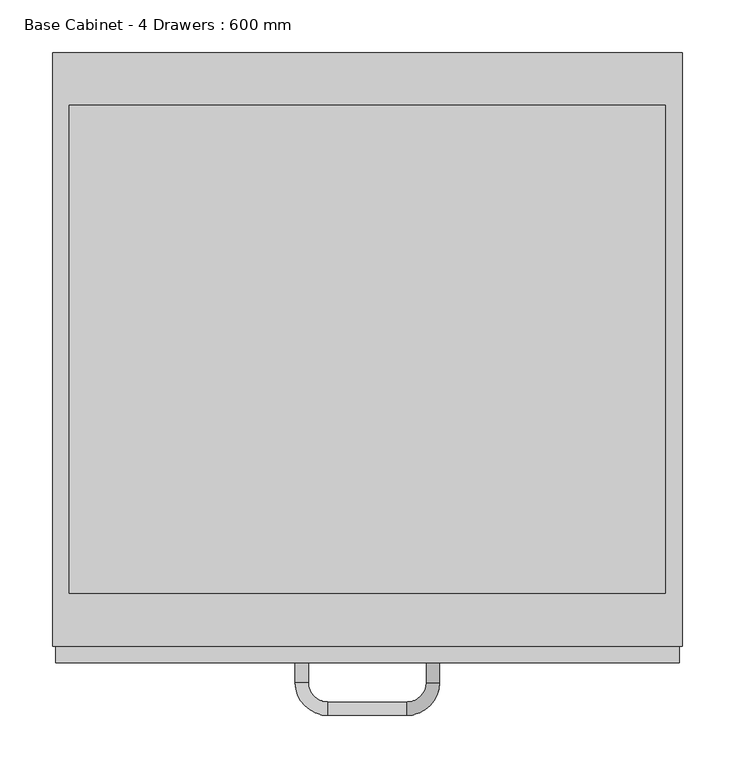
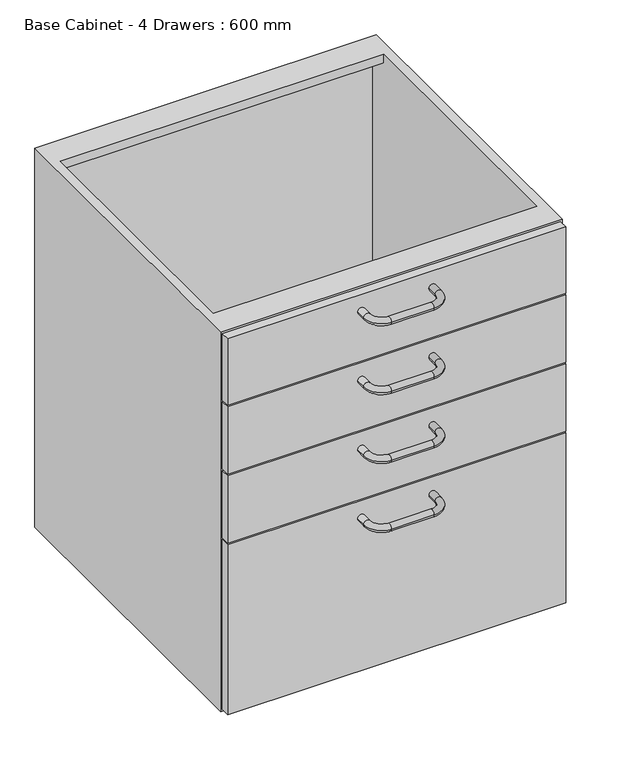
"""IFC4 building model written with IfcOpenShell, lengths in millimetres: furniture geometry, Base Cabinet - 4 Drawers : 600 mm."""

from ifc_helpers import new_model, si_unit, point, frame, origin, place, context, project, spatial, polyline, circle_curve, ellipse_curve, trimmed, outline, extrude, faceted_brep, source, transform, mapped, element, save
from ifc_brep_helpers import plane_surface, cylinder_surface, revolved_surface, advanced_brep


def base_cabinet_4_drawers_600_mm_75a3c887(model_context):
    return source(origin(), model_context, "Body", "SolidModel", [
        extrude(outline(polyline([(341.7003264, -581.0), (-252.2996736, -581.0), (-252.2996736, -565.0), (341.7003264, -565.0), (341.7003264, -581.0)])), frame((0.0, 0.0, 741.5), z_axis=(0.0, 0.0, 1.0), x_axis=(1.0, 0.0, 0.0)), (0.0, 0.0, 1.0), 123.5),
        extrude(outline(polyline([(341.7003264, -581.0), (-252.2996736, -581.0), (-252.2996736, -565.0), (341.7003264, -565.0), (341.7003264, -581.0)])), frame((0.0, 0.0, 167.0), z_axis=(0.0, 0.0, 1.0), x_axis=(1.0, 0.0, 0.0)), (0.0, 0.0, 1.0), 315.5),
        extrude(outline(polyline([(341.7003264, -581.0), (-252.2996736, -581.0), (-252.2996736, -565.0), (341.7003264, -565.0), (341.7003264, -581.0)])), frame((0.0, 0.0, 613.5), z_axis=(0.0, 0.0, 1.0), x_axis=(1.0, 0.0, 0.0)), (0.0, 0.0, 1.0), 125.0),
        extrude(outline(polyline([(341.7003264, -581.0), (-252.2996736, -581.0), (-252.2996736, -565.0), (341.7003264, -565.0), (341.7003264, -581.0)])), frame((0.0, 0.0, 485.5), z_axis=(0.0, 0.0, 1.0), x_axis=(1.0, 0.0, 0.0)), (0.0, 0.0, 1.0), 125.0),
        advanced_brep(
        [(113.4503264, -581.0, 451.0), (100.9503264, -581.0, 451.0), (113.4503264, -599.75, 451.0), (100.9503264, -599.75, 451.0), (82.2003264, -618.5, 451.0), (82.2003264, -631.0, 451.0), (7.2003264, -631.0, 451.0), (7.2003264, -618.5, 451.0), (-11.5496736, -599.75, 451.0), (-24.0496736, -599.75, 451.0), (-24.0496736, -581.0, 451.0), (-11.5496736, -581.0, 451.0)],
        [
            (0, 1, circle_curve(frame((107.2003264, -581.0, 451.0), z_axis=(0.0, 1.0, 0.0), x_axis=(-1.0, 0.0, 0.0)), 6.25)),
            (1, 0, circle_curve(frame((107.2003264, -581.0, 451.0), z_axis=(0.0, 1.0, 0.0), x_axis=(-1.0, 0.0, 0.0)), 6.25)),
            (0, 2),
            (2, 3, circle_curve(frame((107.2003264, -599.75, 451.0), z_axis=(0.0, 1.0, 0.0), x_axis=(-1.0, 0.0, 0.0)), 6.25)),
            (3, 1),
            (3, 2, circle_curve(frame((107.2003264, -599.75, 451.0), z_axis=(0.0, 1.0, 0.0), x_axis=(-1.0, 0.0, 0.0)), 6.25)),
            (4, 3, circle_curve(frame((82.2003264, -599.75, 451.0), z_axis=(0.0, 0.0, 1.0), x_axis=(1.0, 0.0, 0.0)), 18.75)),
            (2, 5, circle_curve(frame((82.2003264, -599.75, 451.0), z_axis=(0.0, 0.0, -1.0), x_axis=(1.0, 0.0, 0.0)), 31.25)),
            (5, 4, circle_curve(frame((82.2003264, -624.75, 451.0), z_axis=(1.0, 0.0, 0.0), x_axis=(0.0, 1.0, 0.0)), 6.25)),
            (4, 5, circle_curve(frame((82.2003264, -624.75, 451.0), z_axis=(1.0, 0.0, 0.0), x_axis=(0.0, 1.0, 0.0)), 6.25)),
            (5, 6),
            (6, 7, circle_curve(frame((7.2003264, -624.75, 451.0), z_axis=(1.0, 0.0, 0.0), x_axis=(0.0, 1.0, 0.0)), 6.25)),
            (7, 4),
            (7, 6, circle_curve(frame((7.2003264, -624.75, 451.0), z_axis=(1.0, 0.0, 0.0), x_axis=(0.0, 1.0, 0.0)), 6.25)),
            (8, 7, circle_curve(frame((7.2003264, -599.75, 451.0), z_axis=(0.0, 0.0, 1.0), x_axis=(0.0, -1.0, 0.0)), 18.75)),
            (6, 9, circle_curve(frame((7.2003264, -599.75, 451.0), z_axis=(0.0, 0.0, -1.0), x_axis=(0.0, -1.0, 0.0)), 31.25)),
            (9, 8, circle_curve(frame((-17.7996736, -599.75, 451.0), z_axis=(0.0, -1.0, 0.0), x_axis=(1.0, 0.0, 0.0)), 6.25)),
            (8, 9, circle_curve(frame((-17.7996736, -599.75, 451.0), z_axis=(0.0, -1.0, 0.0), x_axis=(1.0, 0.0, 0.0)), 6.25)),
            (10, 11, circle_curve(frame((-17.7996736, -581.0, 451.0), z_axis=(0.0, 1.0, 0.0), x_axis=(1.0, 0.0, 0.0)), 6.25)),
            (11, 10, circle_curve(frame((-17.7996736, -581.0, 451.0), z_axis=(0.0, 1.0, 0.0), x_axis=(1.0, 0.0, 0.0)), 6.25)),
            (9, 10),
            (11, 8),
        ],
        [
            plane_surface(frame((107.2003264, -581.0, 451.0), z_axis=(0.0, 1.0, 0.0), x_axis=(0.0, 0.0, -1.0))),
            cylinder_surface(frame((107.2003264, -581.0, 451.0), z_axis=(0.0, 1.0, 0.0), x_axis=(-1.0, 0.0, 0.0)), 6.25),
            revolved_surface(trimmed(ellipse_curve(frame((107.2003264, -599.75, 451.0), z_axis=(0.0, 1.0, 0.0), x_axis=(-1.0, 0.0, 0.0)), 6.25, 6.25), [point((113.4503264, -599.75, 451.0))], [point((100.9503264, -599.75, 451.0))], True, "CARTESIAN"), (82.2003264, -599.75, 451.0), (0.0, 0.0, -1.0)),
            revolved_surface(trimmed(ellipse_curve(frame((107.2003264, -599.75, 451.0), z_axis=(0.0, 1.0, 0.0), x_axis=(-1.0, 0.0, 0.0)), 6.25, 6.25), [point((100.9503264, -599.75, 451.0))], [point((113.4503264, -599.75, 451.0))], True, "CARTESIAN"), (82.2003264, -599.75, 451.0), (0.0, 0.0, -1.0)),
            cylinder_surface(frame((82.2003264, -624.75, 451.0), z_axis=(1.0, 0.0, 0.0), x_axis=(0.0, 1.0, 0.0)), 6.25),
            revolved_surface(trimmed(ellipse_curve(frame((7.2003264, -624.75, 451.0), z_axis=(1.0, 0.0, 0.0), x_axis=(0.0, 1.0, 0.0)), 6.25, 6.25), [point((7.2003264, -631.0, 451.0))], [point((7.2003264, -618.5, 451.0))], True, "CARTESIAN"), (7.2003264, -599.75, 451.0), (0.0, 0.0, -1.0)),
            revolved_surface(trimmed(ellipse_curve(frame((7.2003264, -624.75, 451.0), z_axis=(1.0, 0.0, 0.0), x_axis=(0.0, 1.0, 0.0)), 6.25, 6.25), [point((7.2003264, -618.5, 451.0))], [point((7.2003264, -631.0, 451.0))], True, "CARTESIAN"), (7.2003264, -599.75, 451.0), (0.0, 0.0, -1.0)),
            plane_surface(frame((-17.7996736, -581.0, 451.0), z_axis=(0.0, 1.0, 0.0), x_axis=(0.0, 0.0, -1.0))),
            cylinder_surface(frame((-17.7996736, -599.75, 451.0), z_axis=(0.0, -1.0, 0.0), x_axis=(1.0, 0.0, 0.0)), 6.25),
        ],
        [
            (0, [[1, 2]]),
            (1, [[-1, 3, 4, 5]]),
            (1, [[-2, -5, 6, -3]]),
            (2, [[7, -4, 8, 9]]),
            (3, [[-8, -6, -7, 10]]),
            (4, [[-9, 11, 12, 13]]),
            (4, [[-10, -13, 14, -11]]),
            (5, [[15, -12, 16, 17]]),
            (6, [[-16, -14, -15, 18]]),
            (7, [[19, 20]]),
            (8, [[-17, 21, -20, 22]]),
            (8, [[-18, -22, -19, -21]]),
        ],
    ),
        advanced_brep(
        [(113.4503264, -581.0, 579.0), (100.9503264, -581.0, 579.0), (113.4503264, -599.75, 579.0), (100.9503264, -599.75, 579.0), (82.2003264, -618.5, 579.0), (82.2003264, -631.0, 579.0), (7.2003264, -631.0, 579.0), (7.2003264, -618.5, 579.0), (-11.5496736, -599.75, 579.0), (-24.0496736, -599.75, 579.0), (-24.0496736, -581.0, 579.0), (-11.5496736, -581.0, 579.0)],
        [
            (0, 1, circle_curve(frame((107.2003264, -581.0, 579.0), z_axis=(0.0, 1.0, 0.0), x_axis=(-1.0, 0.0, 0.0)), 6.25)),
            (1, 0, circle_curve(frame((107.2003264, -581.0, 579.0), z_axis=(0.0, 1.0, 0.0), x_axis=(-1.0, 0.0, 0.0)), 6.25)),
            (0, 2),
            (2, 3, circle_curve(frame((107.2003264, -599.75, 579.0), z_axis=(0.0, 1.0, 0.0), x_axis=(-1.0, 0.0, 0.0)), 6.25)),
            (3, 1),
            (3, 2, circle_curve(frame((107.2003264, -599.75, 579.0), z_axis=(0.0, 1.0, 0.0), x_axis=(-1.0, 0.0, 0.0)), 6.25)),
            (4, 3, circle_curve(frame((82.2003264, -599.75, 579.0), z_axis=(0.0, 0.0, 1.0), x_axis=(1.0, 0.0, 0.0)), 18.75)),
            (2, 5, circle_curve(frame((82.2003264, -599.75, 579.0), z_axis=(0.0, 0.0, -1.0), x_axis=(1.0, 0.0, 0.0)), 31.25)),
            (5, 4, circle_curve(frame((82.2003264, -624.75, 579.0), z_axis=(1.0, 0.0, 0.0), x_axis=(0.0, 1.0, 0.0)), 6.25)),
            (4, 5, circle_curve(frame((82.2003264, -624.75, 579.0), z_axis=(1.0, 0.0, 0.0), x_axis=(0.0, 1.0, 0.0)), 6.25)),
            (5, 6),
            (6, 7, circle_curve(frame((7.2003264, -624.75, 579.0), z_axis=(1.0, 0.0, 0.0), x_axis=(0.0, 1.0, 0.0)), 6.25)),
            (7, 4),
            (7, 6, circle_curve(frame((7.2003264, -624.75, 579.0), z_axis=(1.0, 0.0, 0.0), x_axis=(0.0, 1.0, 0.0)), 6.25)),
            (8, 7, circle_curve(frame((7.2003264, -599.75, 579.0), z_axis=(0.0, 0.0, 1.0), x_axis=(0.0, -1.0, 0.0)), 18.75)),
            (6, 9, circle_curve(frame((7.2003264, -599.75, 579.0), z_axis=(0.0, 0.0, -1.0), x_axis=(0.0, -1.0, 0.0)), 31.25)),
            (9, 8, circle_curve(frame((-17.7996736, -599.75, 579.0), z_axis=(0.0, -1.0, 0.0), x_axis=(1.0, 0.0, 0.0)), 6.25)),
            (8, 9, circle_curve(frame((-17.7996736, -599.75, 579.0), z_axis=(0.0, -1.0, 0.0), x_axis=(1.0, 0.0, 0.0)), 6.25)),
            (10, 11, circle_curve(frame((-17.7996736, -581.0, 579.0), z_axis=(0.0, 1.0, 0.0), x_axis=(1.0, 0.0, 0.0)), 6.25)),
            (11, 10, circle_curve(frame((-17.7996736, -581.0, 579.0), z_axis=(0.0, 1.0, 0.0), x_axis=(1.0, 0.0, 0.0)), 6.25)),
            (9, 10),
            (11, 8),
        ],
        [
            plane_surface(frame((107.2003264, -581.0, 579.0), z_axis=(0.0, 1.0, 0.0), x_axis=(0.0, 0.0, -1.0))),
            cylinder_surface(frame((107.2003264, -581.0, 579.0), z_axis=(0.0, 1.0, 0.0), x_axis=(-1.0, 0.0, 0.0)), 6.25),
            revolved_surface(trimmed(ellipse_curve(frame((107.2003264, -599.75, 579.0), z_axis=(0.0, 1.0, 0.0), x_axis=(-1.0, 0.0, 0.0)), 6.25, 6.25), [point((113.4503264, -599.75, 579.0))], [point((100.9503264, -599.75, 579.0))], True, "CARTESIAN"), (82.2003264, -599.75, 579.0), (0.0, 0.0, -1.0)),
            revolved_surface(trimmed(ellipse_curve(frame((107.2003264, -599.75, 579.0), z_axis=(0.0, 1.0, 0.0), x_axis=(-1.0, 0.0, 0.0)), 6.25, 6.25), [point((100.9503264, -599.75, 579.0))], [point((113.4503264, -599.75, 579.0))], True, "CARTESIAN"), (82.2003264, -599.75, 579.0), (0.0, 0.0, -1.0)),
            cylinder_surface(frame((82.2003264, -624.75, 579.0), z_axis=(1.0, 0.0, 0.0), x_axis=(0.0, 1.0, 0.0)), 6.25),
            revolved_surface(trimmed(ellipse_curve(frame((7.2003264, -624.75, 579.0), z_axis=(1.0, 0.0, 0.0), x_axis=(0.0, 1.0, 0.0)), 6.25, 6.25), [point((7.2003264, -631.0, 579.0))], [point((7.2003264, -618.5, 579.0))], True, "CARTESIAN"), (7.2003264, -599.75, 579.0), (0.0, 0.0, -1.0)),
            revolved_surface(trimmed(ellipse_curve(frame((7.2003264, -624.75, 579.0), z_axis=(1.0, 0.0, 0.0), x_axis=(0.0, 1.0, 0.0)), 6.25, 6.25), [point((7.2003264, -618.5, 579.0))], [point((7.2003264, -631.0, 579.0))], True, "CARTESIAN"), (7.2003264, -599.75, 579.0), (0.0, 0.0, -1.0)),
            plane_surface(frame((-17.7996736, -581.0, 579.0), z_axis=(0.0, 1.0, 0.0), x_axis=(0.0, 0.0, -1.0))),
            cylinder_surface(frame((-17.7996736, -599.75, 579.0), z_axis=(0.0, -1.0, 0.0), x_axis=(1.0, 0.0, 0.0)), 6.25),
        ],
        [
            (0, [[1, 2]]),
            (1, [[-1, 3, 4, 5]]),
            (1, [[-2, -5, 6, -3]]),
            (2, [[7, -4, 8, 9]]),
            (3, [[-8, -6, -7, 10]]),
            (4, [[-9, 11, 12, 13]]),
            (4, [[-10, -13, 14, -11]]),
            (5, [[15, -12, 16, 17]]),
            (6, [[-16, -14, -15, 18]]),
            (7, [[19, 20]]),
            (8, [[-17, 21, -20, 22]]),
            (8, [[-18, -22, -19, -21]]),
        ],
    ),
        advanced_brep(
        [(113.4503264, -581.0, 707.0), (100.9503264, -581.0, 707.0), (113.4503264, -599.75, 707.0), (100.9503264, -599.75, 707.0), (82.2003264, -618.5, 707.0), (82.2003264, -631.0, 707.0), (7.2003264, -631.0, 707.0), (7.2003264, -618.5, 707.0), (-11.5496736, -599.75, 707.0), (-24.0496736, -599.75, 707.0), (-24.0496736, -581.0, 707.0), (-11.5496736, -581.0, 707.0)],
        [
            (0, 1, circle_curve(frame((107.2003264, -581.0, 707.0), z_axis=(0.0, 1.0, 0.0), x_axis=(-1.0, 0.0, 0.0)), 6.25)),
            (1, 0, circle_curve(frame((107.2003264, -581.0, 707.0), z_axis=(0.0, 1.0, 0.0), x_axis=(-1.0, 0.0, 0.0)), 6.25)),
            (0, 2),
            (2, 3, circle_curve(frame((107.2003264, -599.75, 707.0), z_axis=(0.0, 1.0, 0.0), x_axis=(-1.0, 0.0, 0.0)), 6.25)),
            (3, 1),
            (3, 2, circle_curve(frame((107.2003264, -599.75, 707.0), z_axis=(0.0, 1.0, 0.0), x_axis=(-1.0, 0.0, 0.0)), 6.25)),
            (4, 3, circle_curve(frame((82.2003264, -599.75, 707.0), z_axis=(0.0, 0.0, 1.0), x_axis=(1.0, 0.0, 0.0)), 18.75)),
            (2, 5, circle_curve(frame((82.2003264, -599.75, 707.0), z_axis=(0.0, 0.0, -1.0), x_axis=(1.0, 0.0, 0.0)), 31.25)),
            (5, 4, circle_curve(frame((82.2003264, -624.75, 707.0), z_axis=(1.0, 0.0, 0.0), x_axis=(0.0, 1.0, 0.0)), 6.25)),
            (4, 5, circle_curve(frame((82.2003264, -624.75, 707.0), z_axis=(1.0, 0.0, 0.0), x_axis=(0.0, 1.0, 0.0)), 6.25)),
            (5, 6),
            (6, 7, circle_curve(frame((7.2003264, -624.75, 707.0), z_axis=(1.0, 0.0, 0.0), x_axis=(0.0, 1.0, 0.0)), 6.25)),
            (7, 4),
            (7, 6, circle_curve(frame((7.2003264, -624.75, 707.0), z_axis=(1.0, 0.0, 0.0), x_axis=(0.0, 1.0, 0.0)), 6.25)),
            (8, 7, circle_curve(frame((7.2003264, -599.75, 707.0), z_axis=(0.0, 0.0, 1.0), x_axis=(0.0, -1.0, 0.0)), 18.75)),
            (6, 9, circle_curve(frame((7.2003264, -599.75, 707.0), z_axis=(0.0, 0.0, -1.0), x_axis=(0.0, -1.0, 0.0)), 31.25)),
            (9, 8, circle_curve(frame((-17.7996736, -599.75, 707.0), z_axis=(0.0, -1.0, 0.0), x_axis=(1.0, 0.0, 0.0)), 6.25)),
            (8, 9, circle_curve(frame((-17.7996736, -599.75, 707.0), z_axis=(0.0, -1.0, 0.0), x_axis=(1.0, 0.0, 0.0)), 6.25)),
            (10, 11, circle_curve(frame((-17.7996736, -581.0, 707.0), z_axis=(0.0, 1.0, 0.0), x_axis=(1.0, 0.0, 0.0)), 6.25)),
            (11, 10, circle_curve(frame((-17.7996736, -581.0, 707.0), z_axis=(0.0, 1.0, 0.0), x_axis=(1.0, 0.0, 0.0)), 6.25)),
            (9, 10),
            (11, 8),
        ],
        [
            plane_surface(frame((107.2003264, -581.0, 707.0), z_axis=(0.0, 1.0, 0.0), x_axis=(0.0, 0.0, -1.0))),
            cylinder_surface(frame((107.2003264, -581.0, 707.0), z_axis=(0.0, 1.0, 0.0), x_axis=(-1.0, 0.0, 0.0)), 6.25),
            revolved_surface(trimmed(ellipse_curve(frame((107.2003264, -599.75, 707.0), z_axis=(0.0, 1.0, 0.0), x_axis=(-1.0, 0.0, 0.0)), 6.25, 6.25), [point((113.4503264, -599.75, 707.0))], [point((100.9503264, -599.75, 707.0))], True, "CARTESIAN"), (82.2003264, -599.75, 707.0), (0.0, 0.0, -1.0)),
            revolved_surface(trimmed(ellipse_curve(frame((107.2003264, -599.75, 707.0), z_axis=(0.0, 1.0, 0.0), x_axis=(-1.0, 0.0, 0.0)), 6.25, 6.25), [point((100.9503264, -599.75, 707.0))], [point((113.4503264, -599.75, 707.0))], True, "CARTESIAN"), (82.2003264, -599.75, 707.0), (0.0, 0.0, -1.0)),
            cylinder_surface(frame((82.2003264, -624.75, 707.0), z_axis=(1.0, 0.0, 0.0), x_axis=(0.0, 1.0, 0.0)), 6.25),
            revolved_surface(trimmed(ellipse_curve(frame((7.2003264, -624.75, 707.0), z_axis=(1.0, 0.0, 0.0), x_axis=(0.0, 1.0, 0.0)), 6.25, 6.25), [point((7.2003264, -631.0, 707.0))], [point((7.2003264, -618.5, 707.0))], True, "CARTESIAN"), (7.2003264, -599.75, 707.0), (0.0, 0.0, -1.0)),
            revolved_surface(trimmed(ellipse_curve(frame((7.2003264, -624.75, 707.0), z_axis=(1.0, 0.0, 0.0), x_axis=(0.0, 1.0, 0.0)), 6.25, 6.25), [point((7.2003264, -618.5, 707.0))], [point((7.2003264, -631.0, 707.0))], True, "CARTESIAN"), (7.2003264, -599.75, 707.0), (0.0, 0.0, -1.0)),
            plane_surface(frame((-17.7996736, -581.0, 707.0), z_axis=(0.0, 1.0, 0.0), x_axis=(0.0, 0.0, -1.0))),
            cylinder_surface(frame((-17.7996736, -599.75, 707.0), z_axis=(0.0, -1.0, 0.0), x_axis=(1.0, 0.0, 0.0)), 6.25),
        ],
        [
            (0, [[1, 2]]),
            (1, [[-1, 3, 4, 5]]),
            (1, [[-2, -5, 6, -3]]),
            (2, [[7, -4, 8, 9]]),
            (3, [[-8, -6, -7, 10]]),
            (4, [[-9, 11, 12, 13]]),
            (4, [[-10, -13, 14, -11]]),
            (5, [[15, -12, 16, 17]]),
            (6, [[-16, -14, -15, 18]]),
            (7, [[19, 20]]),
            (8, [[-17, 21, -20, 22]]),
            (8, [[-18, -22, -19, -21]]),
        ],
    ),
        advanced_brep(
        [(113.4503264, -581.0, 835.0), (100.9503264, -581.0, 835.0), (113.4503264, -599.75, 835.0), (100.9503264, -599.75, 835.0), (82.2003264, -618.5, 835.0), (82.2003264, -631.0, 835.0), (7.2003264, -631.0, 835.0), (7.2003264, -618.5, 835.0), (-11.5496736, -599.75, 835.0), (-24.0496736, -599.75, 835.0), (-24.0496736, -581.0, 835.0), (-11.5496736, -581.0, 835.0)],
        [
            (0, 1, circle_curve(frame((107.2003264, -581.0, 835.0), z_axis=(0.0, 1.0, 0.0), x_axis=(-1.0, 0.0, 0.0)), 6.25)),
            (1, 0, circle_curve(frame((107.2003264, -581.0, 835.0), z_axis=(0.0, 1.0, 0.0), x_axis=(-1.0, 0.0, 0.0)), 6.25)),
            (0, 2),
            (2, 3, circle_curve(frame((107.2003264, -599.75, 835.0), z_axis=(0.0, 1.0, 0.0), x_axis=(-1.0, 0.0, 0.0)), 6.25)),
            (3, 1),
            (3, 2, circle_curve(frame((107.2003264, -599.75, 835.0), z_axis=(0.0, 1.0, 0.0), x_axis=(-1.0, 0.0, 0.0)), 6.25)),
            (4, 3, circle_curve(frame((82.2003264, -599.75, 835.0), z_axis=(0.0, 0.0, 1.0), x_axis=(1.0, 0.0, 0.0)), 18.75)),
            (2, 5, circle_curve(frame((82.2003264, -599.75, 835.0), z_axis=(0.0, 0.0, -1.0), x_axis=(1.0, 0.0, 0.0)), 31.25)),
            (5, 4, circle_curve(frame((82.2003264, -624.75, 835.0), z_axis=(1.0, 0.0, 0.0), x_axis=(0.0, 1.0, 0.0)), 6.25)),
            (4, 5, circle_curve(frame((82.2003264, -624.75, 835.0), z_axis=(1.0, 0.0, 0.0), x_axis=(0.0, 1.0, 0.0)), 6.25)),
            (5, 6),
            (6, 7, circle_curve(frame((7.2003264, -624.75, 835.0), z_axis=(1.0, 0.0, 0.0), x_axis=(0.0, 1.0, 0.0)), 6.25)),
            (7, 4),
            (7, 6, circle_curve(frame((7.2003264, -624.75, 835.0), z_axis=(1.0, 0.0, 0.0), x_axis=(0.0, 1.0, 0.0)), 6.25)),
            (8, 7, circle_curve(frame((7.2003264, -599.75, 835.0), z_axis=(0.0, 0.0, 1.0), x_axis=(0.0, -1.0, 0.0)), 18.75)),
            (6, 9, circle_curve(frame((7.2003264, -599.75, 835.0), z_axis=(0.0, 0.0, -1.0), x_axis=(0.0, -1.0, 0.0)), 31.25)),
            (9, 8, circle_curve(frame((-17.7996736, -599.75, 835.0), z_axis=(0.0, -1.0, 0.0), x_axis=(1.0, 0.0, 0.0)), 6.25)),
            (8, 9, circle_curve(frame((-17.7996736, -599.75, 835.0), z_axis=(0.0, -1.0, 0.0), x_axis=(1.0, 0.0, 0.0)), 6.25)),
            (10, 11, circle_curve(frame((-17.7996736, -581.0, 835.0), z_axis=(0.0, 1.0, 0.0), x_axis=(1.0, 0.0, 0.0)), 6.25)),
            (11, 10, circle_curve(frame((-17.7996736, -581.0, 835.0), z_axis=(0.0, 1.0, 0.0), x_axis=(1.0, 0.0, 0.0)), 6.25)),
            (9, 10),
            (11, 8),
        ],
        [
            plane_surface(frame((107.2003264, -581.0, 835.0), z_axis=(0.0, 1.0, 0.0), x_axis=(0.0, 0.0, -1.0))),
            cylinder_surface(frame((107.2003264, -581.0, 835.0), z_axis=(0.0, 1.0, 0.0), x_axis=(-1.0, 0.0, 0.0)), 6.25),
            revolved_surface(trimmed(ellipse_curve(frame((107.2003264, -599.75, 835.0), z_axis=(0.0, 1.0, 0.0), x_axis=(-1.0, 0.0, 0.0)), 6.25, 6.25), [point((113.4503264, -599.75, 835.0))], [point((100.9503264, -599.75, 835.0))], True, "CARTESIAN"), (82.2003264, -599.75, 835.0), (0.0, 0.0, -1.0)),
            revolved_surface(trimmed(ellipse_curve(frame((107.2003264, -599.75, 835.0), z_axis=(0.0, 1.0, 0.0), x_axis=(-1.0, 0.0, 0.0)), 6.25, 6.25), [point((100.9503264, -599.75, 835.0))], [point((113.4503264, -599.75, 835.0))], True, "CARTESIAN"), (82.2003264, -599.75, 835.0), (0.0, 0.0, -1.0)),
            cylinder_surface(frame((82.2003264, -624.75, 835.0), z_axis=(1.0, 0.0, 0.0), x_axis=(0.0, 1.0, 0.0)), 6.25),
            revolved_surface(trimmed(ellipse_curve(frame((7.2003264, -624.75, 835.0), z_axis=(1.0, 0.0, 0.0), x_axis=(0.0, 1.0, 0.0)), 6.25, 6.25), [point((7.2003264, -631.0, 835.0))], [point((7.2003264, -618.5, 835.0))], True, "CARTESIAN"), (7.2003264, -599.75, 835.0), (0.0, 0.0, -1.0)),
            revolved_surface(trimmed(ellipse_curve(frame((7.2003264, -624.75, 835.0), z_axis=(1.0, 0.0, 0.0), x_axis=(0.0, 1.0, 0.0)), 6.25, 6.25), [point((7.2003264, -618.5, 835.0))], [point((7.2003264, -631.0, 835.0))], True, "CARTESIAN"), (7.2003264, -599.75, 835.0), (0.0, 0.0, -1.0)),
            plane_surface(frame((-17.7996736, -581.0, 835.0), z_axis=(0.0, 1.0, 0.0), x_axis=(0.0, 0.0, -1.0))),
            cylinder_surface(frame((-17.7996736, -599.75, 835.0), z_axis=(0.0, -1.0, 0.0), x_axis=(1.0, 0.0, 0.0)), 6.25),
        ],
        [
            (0, [[1, 2]]),
            (1, [[-1, 3, 4, 5]]),
            (1, [[-2, -5, 6, -3]]),
            (2, [[7, -4, 8, 9]]),
            (3, [[-8, -6, -7, 10]]),
            (4, [[-9, 11, 12, 13]]),
            (4, [[-10, -13, 14, -11]]),
            (5, [[15, -12, 16, 17]]),
            (6, [[-16, -14, -15, 18]]),
            (7, [[19, 20]]),
            (8, [[-17, 21, -20, 22]]),
            (8, [[-18, -22, -19, -21]]),
        ],
    ),
        faceted_brep([(344.7003264, 0.0, 868.0), (344.7003264, 0.0, 164.0), (-255.2996736, 0.0, 164.0), (-255.2996736, 0.0, 868.0), (328.7003264, 0.0, 852.0), (-239.2996736, 0.0, 852.0), (-239.2996736, 0.0, 180.0), (328.7003264, 0.0, 180.0), (344.7003264, -565.0, 868.0), (-255.2996736, -565.0, 868.0), (-255.2996736, -565.0, 164.0), (344.7003264, -565.0, 164.0), (328.7003264, -565.0, 852.0), (328.7003264, -565.0, 180.0), (-239.2996736, -565.0, 180.0), (-239.2996736, -565.0, 852.0), (-239.2996736, -50.0, 868.0), (328.7003264, -50.0, 868.0), (328.7003264, -515.0, 868.0), (-239.2996736, -515.0, 868.0), (328.7003264, -515.0, 852.0), (328.7003264, -50.0, 852.0), (-239.2996736, -50.0, 852.0), (-239.2996736, -515.0, 852.0)], [[[0, 1, 2, 3], [4, 5, 6, 7]], [[8, 9, 10, 11], [12, 13, 14, 15]], [[0, 3, 9, 8], [16, 17, 18, 19]], [[3, 2, 10, 9]], [[2, 1, 11, 10]], [[1, 0, 8, 11]], [[4, 7, 13, 12, 20, 18, 17, 21]], [[7, 6, 14, 13]], [[6, 5, 22, 16, 19, 23, 15, 14]], [[5, 4, 21, 22]], [[12, 15, 23, 20]], [[16, 22, 21, 17]], [[23, 19, 18, 20]]]),
        extrude(outline(polyline([(328.7003264, -16.0), (-239.2996736, -16.0), (-239.2996736, -10.0), (328.7003264, -10.0), (328.7003264, -16.0)])), frame((0.0, 0.0, 180.0), z_axis=(0.0, 0.0, 1.0), x_axis=(1.0, 0.0, 0.0)), (0.0, 0.0, 1.0), 672.0),
    ])


if __name__ == "__main__":
    model = new_model("IFC4")
    model_context = context("Model", 3, world=origin())
    ifc_project = project(units=[si_unit("LENGTHUNIT", "METRE", prefix="MILLI")], contexts=[model_context])
    site = spatial("IfcSite", under=ifc_project)
    building = spatial("IfcBuilding", under=site)
    placement = place(None, origin())
    base_cabinet_4_drawers_600_mm_shape = base_cabinet_4_drawers_600_mm_75a3c887(model_context)
    element("IfcFurniture", 1, ObjectType="Base Cabinet - 4 Drawers : 600 mm", at=placement, inside=building, context=model_context, shape_type="MappedRepresentation", body=[
        mapped(base_cabinet_4_drawers_600_mm_shape, transform((0.0, 0.0, 0.0), x_axis=(1.0, 0.0, 0.0), y_axis=(0.0, 1.0, 0.0), z_axis=(0.0, 0.0, 1.0))),
    ])
    save(model, "model.ifc")
